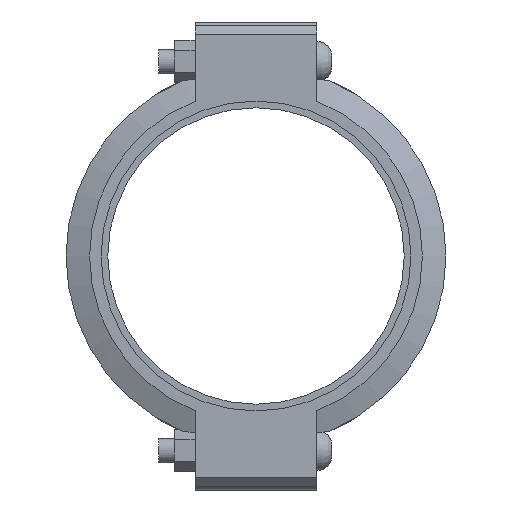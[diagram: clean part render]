
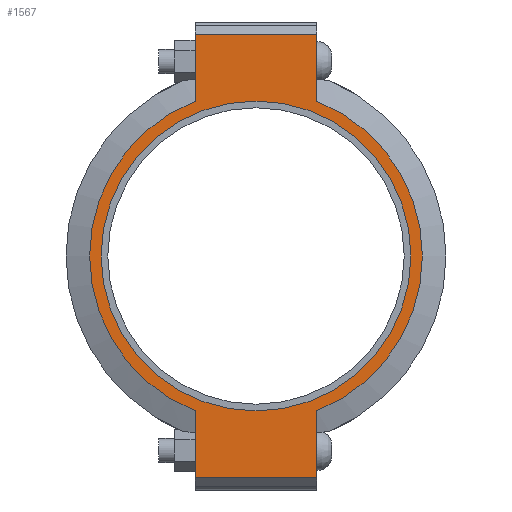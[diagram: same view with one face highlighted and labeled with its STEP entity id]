
A CAD part, left-side view. The second image highlights one B-rep face of the part: STEP entity #1567.
In plain terms, the highlighted planar face has unit normal (-1, 0, 0) as drawn and (0, 0, 1) by its records, which use the part's own axes.
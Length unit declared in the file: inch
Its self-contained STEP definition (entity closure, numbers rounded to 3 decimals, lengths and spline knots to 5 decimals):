
#194=LINE('',#2673,#281);
#205=LINE('',#2724,#292);
#211=LINE('',#2750,#298);
#213=LINE('',#2753,#300);
#214=LINE('',#2758,#301);
#215=LINE('',#2759,#302);
#281=VECTOR('',#2155,0.3937);
#292=VECTOR('',#2186,0.3937);
#298=VECTOR('',#2204,0.3937);
#300=VECTOR('',#2208,0.3937);
#301=VECTOR('',#2213,0.3937);
#302=VECTOR('',#2214,0.3937);
#360=FACE_BOUND('',#519,.T.);
#420=FACE_OUTER_BOUND('',#518,.T.);
#518=EDGE_LOOP('',(#1256,#1257,#1258,#1259,#1260,#1261,#1262,#1263));
#519=EDGE_LOOP('',(#1264));
#624=CIRCLE('',#1812,6.84375);
#625=CIRCLE('',#1813,6.84375);
#626=CIRCLE('',#1814,6.375);
#733=VERTEX_POINT('',#2670);
#734=VERTEX_POINT('',#2672);
#751=VERTEX_POINT('',#2719);
#752=VERTEX_POINT('',#2723);
#759=VERTEX_POINT('',#2745);
#760=VERTEX_POINT('',#2749);
#761=VERTEX_POINT('',#2755);
#762=VERTEX_POINT('',#2757);
#763=VERTEX_POINT('',#2761);
#903=EDGE_CURVE('',#734,#733,#194,.T.);
#924=EDGE_CURVE('',#752,#751,#205,.T.);
#935=EDGE_CURVE('',#760,#759,#211,.T.);
#937=EDGE_CURVE('',#760,#733,#213,.T.);
#938=EDGE_CURVE('',#759,#761,#624,.T.);
#939=EDGE_CURVE('',#761,#762,#214,.T.);
#940=EDGE_CURVE('',#752,#762,#215,.T.);
#941=EDGE_CURVE('',#751,#734,#625,.T.);
#942=EDGE_CURVE('',#763,#763,#626,.T.);
#1256=ORIENTED_EDGE('',*,*,#937,.F.);
#1257=ORIENTED_EDGE('',*,*,#935,.T.);
#1258=ORIENTED_EDGE('',*,*,#938,.T.);
#1259=ORIENTED_EDGE('',*,*,#939,.T.);
#1260=ORIENTED_EDGE('',*,*,#940,.F.);
#1261=ORIENTED_EDGE('',*,*,#924,.T.);
#1262=ORIENTED_EDGE('',*,*,#941,.T.);
#1263=ORIENTED_EDGE('',*,*,#903,.T.);
#1264=ORIENTED_EDGE('',*,*,#942,.T.);
#1419=PLANE('',#1811);
#1567=ADVANCED_FACE('',(#420,#360),#1419,.T.);
#1811=AXIS2_PLACEMENT_3D('',#2754,#2209,#2210);
#1812=AXIS2_PLACEMENT_3D('',#2756,#2211,#2212);
#1813=AXIS2_PLACEMENT_3D('',#2760,#2215,#2216);
#1814=AXIS2_PLACEMENT_3D('',#2762,#2217,#2218);
#2155=DIRECTION('',(-1.,0.,0.));
#2186=DIRECTION('',(-1.,0.,0.));
#2204=DIRECTION('',(1.,0.,0.));
#2208=DIRECTION('',(0.,1.,0.));
#2209=DIRECTION('center_axis',(0.,0.,1.));
#2210=DIRECTION('ref_axis',(1.,0.,0.));
#2211=DIRECTION('center_axis',(0.,0.,1.));
#2212=DIRECTION('ref_axis',(-1.,0.,0.));
#2213=DIRECTION('',(1.,0.,0.));
#2214=DIRECTION('',(0.,-1.,0.));
#2215=DIRECTION('center_axis',(0.,0.,1.));
#2216=DIRECTION('ref_axis',(-1.,0.,0.));
#2217=DIRECTION('center_axis',(0.,0.,-1.));
#2218=DIRECTION('ref_axis',(-1.,0.,0.));
#2670=CARTESIAN_POINT('',(-9.125,2.5,1.315));
#2672=CARTESIAN_POINT('',(-6.37079,2.5,1.315));
#2673=CARTESIAN_POINT('',(9.625,2.5,1.315));
#2719=CARTESIAN_POINT('',(6.37079,2.5,1.315));
#2723=CARTESIAN_POINT('',(9.125,2.5,1.315));
#2724=CARTESIAN_POINT('',(9.625,2.5,1.315));
#2745=CARTESIAN_POINT('',(-6.37079,-2.5,1.315));
#2749=CARTESIAN_POINT('',(-9.125,-2.5,1.315));
#2750=CARTESIAN_POINT('',(-9.625,-2.5,1.315));
#2753=CARTESIAN_POINT('',(-9.125,1.25,1.315));
#2754=CARTESIAN_POINT('Origin',(0.,0.,
1.315));
#2755=CARTESIAN_POINT('',(6.37079,-2.5,1.315));
#2756=CARTESIAN_POINT('Origin',(0.,0.,1.315));
#2757=CARTESIAN_POINT('',(9.125,-2.5,1.315));
#2758=CARTESIAN_POINT('',(-9.625,-2.5,1.315));
#2759=CARTESIAN_POINT('',(9.125,-1.25,1.315));
#2760=CARTESIAN_POINT('Origin',(0.,0.,1.315));
#2761=CARTESIAN_POINT('',(6.375,0.,1.315));
#2762=CARTESIAN_POINT('Origin',(0.,0.,1.315));
